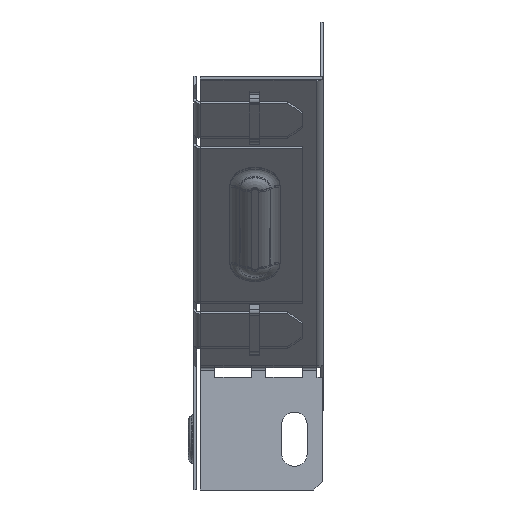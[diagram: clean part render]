
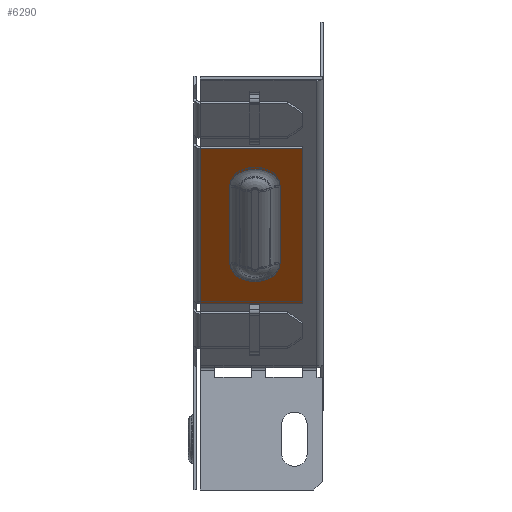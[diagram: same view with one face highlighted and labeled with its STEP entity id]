
A CAD part, left-side view. The second image highlights one B-rep face of the part: STEP entity #6290.
In plain terms, the highlighted planar face has unit normal (-0.707, 0, -0.707).
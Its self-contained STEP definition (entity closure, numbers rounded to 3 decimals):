
#669 = VERTEX_POINT ( 'NONE', #7073 ) ;
#767 = CARTESIAN_POINT ( 'NONE',  ( -76.206, 11.183, -45.472 ) ) ;
#1154 = DIRECTION ( 'NONE',  ( 0.5, -0.707, -0.5 ) ) ;
#2048 = CARTESIAN_POINT ( 'NONE',  ( -54.993, 25.017, -66.685 ) ) ;
#2142 = LINE ( 'NONE', #9155, #3863 ) ;
#2446 = DIRECTION ( 'NONE',  ( 0.707, 0., -0.707 ) ) ;
#2525 = CARTESIAN_POINT ( 'NONE',  ( -86.823, 33.2, -34.855 ) ) ;
#3102 = VERTEX_POINT ( 'NONE', #767 ) ;
#3106 = AXIS2_PLACEMENT_3D ( 'NONE', #13265, #14634, #2446 ) ;
#3321 = VERTEX_POINT ( 'NONE', #2525 ) ;
#3429 = CARTESIAN_POINT ( 'NONE',  ( -86.823, 5., -34.855 ) ) ;
#3826 = CARTESIAN_POINT ( 'NONE',  ( -76.206, 18.1, -45.472 ) ) ;
#3863 = VECTOR ( 'NONE', #10351, 1000. ) ;
#4243 = DIRECTION ( 'NONE',  ( 0.707, 0., -0.707 ) ) ;
#4446 = ORIENTED_EDGE ( 'NONE', *, *, #6923, .T. ) ;
#4606 = ORIENTED_EDGE ( 'NONE', *, *, #6692, .T. ) ;
#4632 = EDGE_CURVE ( 'NONE', #11482, #3321, #13634, .T. ) ;
#5010 = VERTEX_POINT ( 'NONE', #10222 ) ;
#5084 = EDGE_CURVE ( 'NONE', #15250, #669, #2142, .T. ) ;
#5296 = CIRCLE ( 'NONE', #17418, 6.917 ) ;
#5323 = VECTOR ( 'NONE', #14611, 1000. ) ;
#6290 = ADVANCED_FACE ( 'NONE', ( #11761, #6833 ), #13509, .F. ) ;
#6461 = ORIENTED_EDGE ( 'NONE', *, *, #4632, .T. ) ;
#6552 = CARTESIAN_POINT ( 'NONE',  ( -53.337, 5., -68.341 ) ) ;
#6637 = ORIENTED_EDGE ( 'NONE', *, *, #17442, .T. ) ;
#6642 = LINE ( 'NONE', #11549, #16449 ) ;
#6661 = ORIENTED_EDGE ( 'NONE', *, *, #14892, .T. ) ;
#6692 = EDGE_CURVE ( 'NONE', #13495, #5010, #6642, .T. ) ;
#6742 = ORIENTED_EDGE ( 'NONE', *, *, #10578, .T. ) ;
#6833 = FACE_OUTER_BOUND ( 'NONE', #11983, .T. ) ;
#6923 = EDGE_CURVE ( 'NONE', #669, #3102, #5296, .T. ) ;
#7003 = CARTESIAN_POINT ( 'NONE',  ( -54.993, 11.183, -66.685 ) ) ;
#7073 = CARTESIAN_POINT ( 'NONE',  ( -76.206, 25.017, -45.472 ) ) ;
#7804 = AXIS2_PLACEMENT_3D ( 'NONE', #17666, #16146, #11977 ) ;
#7945 = CARTESIAN_POINT ( 'NONE',  ( -44.022, 33.2, -77.656 ) ) ;
#9072 = EDGE_CURVE ( 'NONE', #13495, #3321, #9595, .T. ) ;
#9155 = CARTESIAN_POINT ( 'NONE',  ( -54.993, 25.017, -66.685 ) ) ;
#9331 = DIRECTION ( 'NONE',  ( 0.707, 0., 0.707 ) ) ;
#9572 = ORIENTED_EDGE ( 'NONE', *, *, #5084, .T. ) ;
#9595 = LINE ( 'NONE', #13421, #12789 ) ;
#9652 = VECTOR ( 'NONE', #4243, 1000. ) ;
#10222 = CARTESIAN_POINT ( 'NONE',  ( -44.022, 5., -77.656 ) ) ;
#10351 = DIRECTION ( 'NONE',  ( -0.707, 0., 0.707 ) ) ;
#10578 = EDGE_CURVE ( 'NONE', #3102, #12192, #13274, .T. ) ;
#11482 = VERTEX_POINT ( 'NONE', #15074 ) ;
#11549 = CARTESIAN_POINT ( 'NONE',  ( -44.022, 5., -77.656 ) ) ;
#11761 = FACE_BOUND ( 'NONE', #13983, .T. ) ;
#11977 = DIRECTION ( 'NONE',  ( 0.5, -0.707, -0.5 ) ) ;
#11983 = EDGE_LOOP ( 'NONE', ( #15761, #4606, #6661, #6461 ) ) ;
#12111 = DIRECTION ( 'NONE',  ( -0.707, 0., 0.707 ) ) ;
#12192 = VERTEX_POINT ( 'NONE', #7003 ) ;
#12516 = DIRECTION ( 'NONE',  ( -0.707, 0., 0.707 ) ) ;
#12707 = CIRCLE ( 'NONE', #7804, 6.917 ) ;
#12789 = VECTOR ( 'NONE', #12111, 1000. ) ;
#13265 = CARTESIAN_POINT ( 'NONE',  ( -53.337, 35., -68.341 ) ) ;
#13274 = LINE ( 'NONE', #15060, #9652 ) ;
#13421 = CARTESIAN_POINT ( 'NONE',  ( -103.087, 33.2, -18.591 ) ) ;
#13495 = VERTEX_POINT ( 'NONE', #7945 ) ;
#13509 = PLANE ( 'NONE',  #3106 ) ;
#13634 = LINE ( 'NONE', #3429, #5323 ) ;
#13983 = EDGE_LOOP ( 'NONE', ( #6742, #6637, #9572, #4446 ) ) ;
#14222 = DIRECTION ( 'NONE',  ( 0., -1., 0. ) ) ;
#14611 = DIRECTION ( 'NONE',  ( 0., 1., 0. ) ) ;
#14634 = DIRECTION ( 'NONE',  ( 0.707, 0., 0.707 ) ) ;
#14892 = EDGE_CURVE ( 'NONE', #5010, #11482, #15394, .T. ) ;
#15060 = CARTESIAN_POINT ( 'NONE',  ( -54.993, 11.183, -66.685 ) ) ;
#15074 = CARTESIAN_POINT ( 'NONE',  ( -86.823, 5., -34.855 ) ) ;
#15250 = VERTEX_POINT ( 'NONE', #2048 ) ;
#15394 = LINE ( 'NONE', #6552, #16265 ) ;
#15761 = ORIENTED_EDGE ( 'NONE', *, *, #9072, .F. ) ;
#16146 = DIRECTION ( 'NONE',  ( 0.707, 0., 0.707 ) ) ;
#16265 = VECTOR ( 'NONE', #12516, 1000. ) ;
#16449 = VECTOR ( 'NONE', #14222, 1000. ) ;
#17418 = AXIS2_PLACEMENT_3D ( 'NONE', #3826, #9331, #1154 ) ;
#17442 = EDGE_CURVE ( 'NONE', #12192, #15250, #12707, .T. ) ;
#17666 = CARTESIAN_POINT ( 'NONE',  ( -54.993, 18.1, -66.685 ) ) ;
